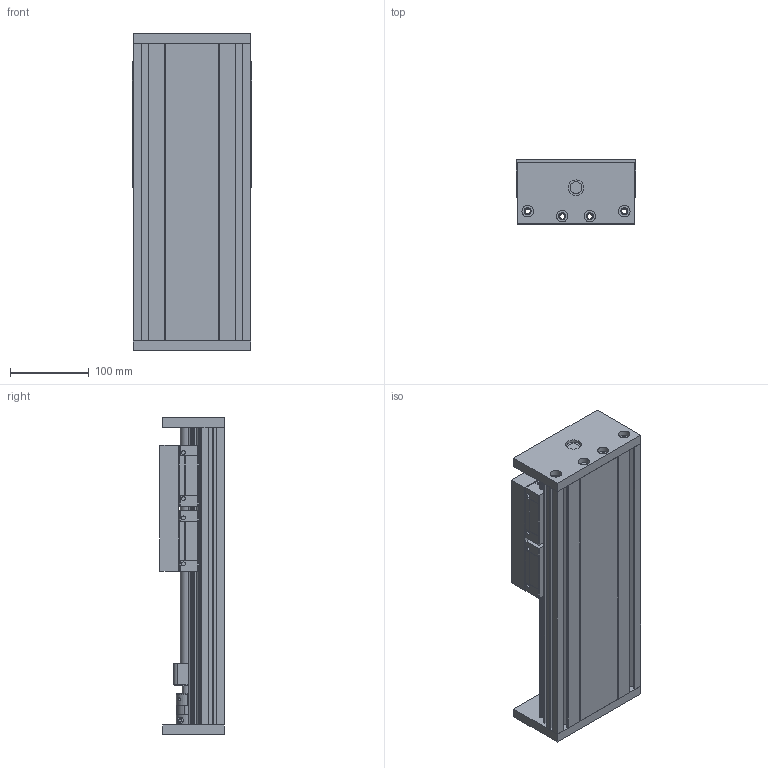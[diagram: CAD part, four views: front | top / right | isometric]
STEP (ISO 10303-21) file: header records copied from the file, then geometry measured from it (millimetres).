
FILE_DESCRIPTION(/* description */ (''),/* implementation_level */ '2;1');
FILE_NAME(/* name */ 'KGX150-200-57电机.stp',/* time_stamp */ '2025-03-20T17:35:20+08:00',/* author */ (''),/* organization */ (''),/* preprocessor_version */ 'ST-DEVELOPER v16',/* originating_system */ 'SIEMENS PLM Software NX 10.0',/* authorisation */ '');
FILE_SCHEMA (('AP203_CONFIGURATION_CONTROLLED_3D_DESIGN_OF_MECHANICAL_PARTS_AND_ASSEMBLIES_MIM_LF { 1 0 10303 403 2 1 2}'));
Length unit declared in the file: millimetre
Products named in the file (1): Admi3948762D3gij
Bounding box: 152 x 82 x 403 mm (x, y, z)
Volume: 1838762.7 mm3; surface area: 726905.3 mm2
Topology: 15 solids, 20 shells, 1390 faces, 3632 edges, 2404 vertices
Faces by surface type: plane 738, cylinder 616, cone 36
Full cylindrical faces by diameter (mm): 3.3 x12, 4.2 x4, 4.5 x2, 5 x4, 5.2 x22, 5.5 x4, 6 x22, 6.5 x10, 8 x2, 9 x8, 9.5 x14, 10 x20, 11 x4, 12 x1, 14.5 x8, 15 x4, 20 x3, 27 x1, 28 x1, 32 x4, 36 x1, 37 x1, 38.3 x1
Entity records: 42302 total; most frequent: CARTESIAN_POINT 7501, DIRECTION 7446, ORIENTED_EDGE 6828, EDGE_CURVE 3414, AXIS2_PLACEMENT_3D 2673, VERTEX_POINT 2346, LINE 2100, VECTOR 2100
